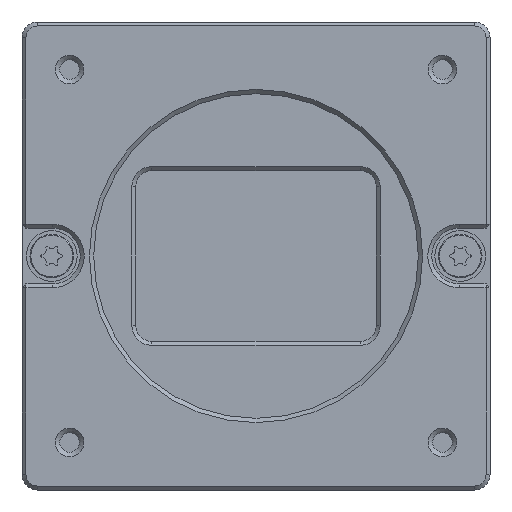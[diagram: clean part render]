
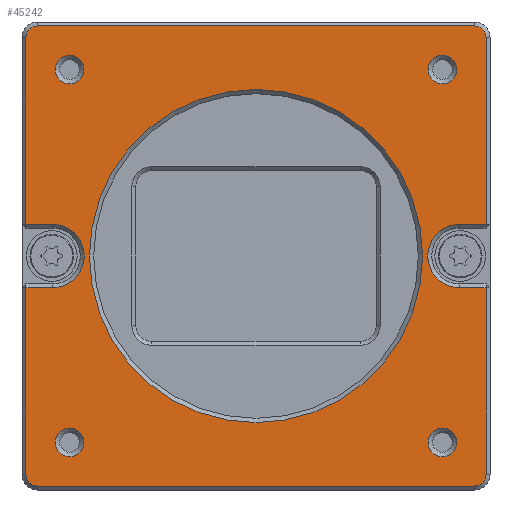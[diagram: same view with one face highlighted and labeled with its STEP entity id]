
A CAD part, front view. The second image highlights one B-rep face of the part: STEP entity #45242.
In plain terms, the highlighted planar face has unit normal (0, -1, 0).
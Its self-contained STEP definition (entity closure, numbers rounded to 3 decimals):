
#1517=FACE_BOUND('',#7579,.T.);
#1518=FACE_BOUND('',#7580,.T.);
#1519=FACE_BOUND('',#7581,.T.);
#1520=FACE_BOUND('',#7582,.T.);
#1521=FACE_BOUND('',#7583,.T.);
#5035=FACE_OUTER_BOUND('',#7578,.T.);
#7578=EDGE_LOOP('',(#35072,#35073,#35074,#35075,#35076,#35077,#35078,#35079,
#35080,#35081,#35082,#35083,#35084,#35085,#35086,#35087));
#7579=EDGE_LOOP('',(#35088,#35089));
#7580=EDGE_LOOP('',(#35090,#35091));
#7581=EDGE_LOOP('',(#35092,#35093));
#7582=EDGE_LOOP('',(#35094,#35095));
#7583=EDGE_LOOP('',(#35096,#35097));
#9275=CIRCLE('',#47622,4.);
#9276=CIRCLE('',#47623,1.5);
#9277=CIRCLE('',#47624,1.5);
#9278=CIRCLE('',#47625,4.);
#9279=CIRCLE('',#47626,1.5);
#9280=CIRCLE('',#47627,1.5);
#9281=CIRCLE('',#47628,21.);
#9282=CIRCLE('',#47629,21.);
#9283=CIRCLE('',#47630,1.8);
#9284=CIRCLE('',#47631,1.8);
#9285=CIRCLE('',#47632,1.8);
#9286=CIRCLE('',#47633,1.8);
#9287=CIRCLE('',#47634,1.8);
#9288=CIRCLE('',#47635,1.8);
#9289=CIRCLE('',#47636,1.8);
#9290=CIRCLE('',#47637,1.8);
#12230=LINE('',#69628,#16969);
#12231=LINE('',#69632,#16970);
#12232=LINE('',#69634,#16971);
#12233=LINE('',#69638,#16972);
#12234=LINE('',#69642,#16973);
#12235=LINE('',#69644,#16974);
#12236=LINE('',#69648,#16975);
#12237=LINE('',#69650,#16976);
#12238=LINE('',#69654,#16977);
#12239=LINE('',#69657,#16978);
#16969=VECTOR('',#53785,10.);
#16970=VECTOR('',#53788,10.);
#16971=VECTOR('',#53789,10.);
#16972=VECTOR('',#53792,10.);
#16973=VECTOR('',#53795,10.);
#16974=VECTOR('',#53796,10.);
#16975=VECTOR('',#53799,10.);
#16976=VECTOR('',#53800,10.);
#16977=VECTOR('',#53803,10.);
#16978=VECTOR('',#53806,10.);
#21394=VERTEX_POINT('',#69626);
#21395=VERTEX_POINT('',#69627);
#21396=VERTEX_POINT('',#69629);
#21397=VERTEX_POINT('',#69631);
#21398=VERTEX_POINT('',#69633);
#21399=VERTEX_POINT('',#69635);
#21400=VERTEX_POINT('',#69637);
#21401=VERTEX_POINT('',#69639);
#21402=VERTEX_POINT('',#69641);
#21403=VERTEX_POINT('',#69643);
#21404=VERTEX_POINT('',#69645);
#21405=VERTEX_POINT('',#69647);
#21406=VERTEX_POINT('',#69649);
#21407=VERTEX_POINT('',#69651);
#21408=VERTEX_POINT('',#69653);
#21409=VERTEX_POINT('',#69655);
#21410=VERTEX_POINT('',#69658);
#21411=VERTEX_POINT('',#69659);
#21412=VERTEX_POINT('',#69662);
#21413=VERTEX_POINT('',#69663);
#21414=VERTEX_POINT('',#69666);
#21415=VERTEX_POINT('',#69667);
#21416=VERTEX_POINT('',#69670);
#21417=VERTEX_POINT('',#69671);
#21418=VERTEX_POINT('',#69674);
#21419=VERTEX_POINT('',#69675);
#26277=EDGE_CURVE('',#21394,#21395,#12230,.T.);
#26278=EDGE_CURVE('',#21396,#21394,#9275,.T.);
#26279=EDGE_CURVE('',#21397,#21396,#12231,.T.);
#26280=EDGE_CURVE('',#21398,#21397,#12232,.T.);
#26281=EDGE_CURVE('',#21399,#21398,#9276,.T.);
#26282=EDGE_CURVE('',#21400,#21399,#12233,.T.);
#26283=EDGE_CURVE('',#21401,#21400,#9277,.T.);
#26284=EDGE_CURVE('',#21402,#21401,#12234,.T.);
#26285=EDGE_CURVE('',#21403,#21402,#12235,.T.);
#26286=EDGE_CURVE('',#21404,#21403,#9278,.T.);
#26287=EDGE_CURVE('',#21405,#21404,#12236,.T.);
#26288=EDGE_CURVE('',#21406,#21405,#12237,.T.);
#26289=EDGE_CURVE('',#21407,#21406,#9279,.T.);
#26290=EDGE_CURVE('',#21408,#21407,#12238,.T.);
#26291=EDGE_CURVE('',#21409,#21408,#9280,.T.);
#26292=EDGE_CURVE('',#21395,#21409,#12239,.T.);
#26293=EDGE_CURVE('',#21410,#21411,#9281,.T.);
#26294=EDGE_CURVE('',#21411,#21410,#9282,.T.);
#26295=EDGE_CURVE('',#21412,#21413,#9283,.T.);
#26296=EDGE_CURVE('',#21413,#21412,#9284,.T.);
#26297=EDGE_CURVE('',#21414,#21415,#9285,.T.);
#26298=EDGE_CURVE('',#21415,#21414,#9286,.T.);
#26299=EDGE_CURVE('',#21416,#21417,#9287,.T.);
#26300=EDGE_CURVE('',#21417,#21416,#9288,.T.);
#26301=EDGE_CURVE('',#21418,#21419,#9289,.T.);
#26302=EDGE_CURVE('',#21419,#21418,#9290,.T.);
#35072=ORIENTED_EDGE('',*,*,#26277,.F.);
#35073=ORIENTED_EDGE('',*,*,#26278,.F.);
#35074=ORIENTED_EDGE('',*,*,#26279,.F.);
#35075=ORIENTED_EDGE('',*,*,#26280,.F.);
#35076=ORIENTED_EDGE('',*,*,#26281,.F.);
#35077=ORIENTED_EDGE('',*,*,#26282,.F.);
#35078=ORIENTED_EDGE('',*,*,#26283,.F.);
#35079=ORIENTED_EDGE('',*,*,#26284,.F.);
#35080=ORIENTED_EDGE('',*,*,#26285,.F.);
#35081=ORIENTED_EDGE('',*,*,#26286,.F.);
#35082=ORIENTED_EDGE('',*,*,#26287,.F.);
#35083=ORIENTED_EDGE('',*,*,#26288,.F.);
#35084=ORIENTED_EDGE('',*,*,#26289,.F.);
#35085=ORIENTED_EDGE('',*,*,#26290,.F.);
#35086=ORIENTED_EDGE('',*,*,#26291,.F.);
#35087=ORIENTED_EDGE('',*,*,#26292,.F.);
#35088=ORIENTED_EDGE('',*,*,#26293,.T.);
#35089=ORIENTED_EDGE('',*,*,#26294,.T.);
#35090=ORIENTED_EDGE('',*,*,#26295,.T.);
#35091=ORIENTED_EDGE('',*,*,#26296,.T.);
#35092=ORIENTED_EDGE('',*,*,#26297,.T.);
#35093=ORIENTED_EDGE('',*,*,#26298,.T.);
#35094=ORIENTED_EDGE('',*,*,#26299,.T.);
#35095=ORIENTED_EDGE('',*,*,#26300,.T.);
#35096=ORIENTED_EDGE('',*,*,#26301,.T.);
#35097=ORIENTED_EDGE('',*,*,#26302,.T.);
#43381=PLANE('',#47621);
#45242=ADVANCED_FACE('',(#5035,#1517,#1518,#1519,#1520,#1521),#43381,.T.);
#47621=AXIS2_PLACEMENT_3D('',#69625,#53783,#53784);
#47622=AXIS2_PLACEMENT_3D('',#69630,#53786,#53787);
#47623=AXIS2_PLACEMENT_3D('',#69636,#53790,#53791);
#47624=AXIS2_PLACEMENT_3D('',#69640,#53793,#53794);
#47625=AXIS2_PLACEMENT_3D('',#69646,#53797,#53798);
#47626=AXIS2_PLACEMENT_3D('',#69652,#53801,#53802);
#47627=AXIS2_PLACEMENT_3D('',#69656,#53804,#53805);
#47628=AXIS2_PLACEMENT_3D('',#69660,#53807,#53808);
#47629=AXIS2_PLACEMENT_3D('',#69661,#53809,#53810);
#47630=AXIS2_PLACEMENT_3D('',#69664,#53811,#53812);
#47631=AXIS2_PLACEMENT_3D('',#69665,#53813,#53814);
#47632=AXIS2_PLACEMENT_3D('',#69668,#53815,#53816);
#47633=AXIS2_PLACEMENT_3D('',#69669,#53817,#53818);
#47634=AXIS2_PLACEMENT_3D('',#69672,#53819,#53820);
#47635=AXIS2_PLACEMENT_3D('',#69673,#53821,#53822);
#47636=AXIS2_PLACEMENT_3D('',#69676,#53823,#53824);
#47637=AXIS2_PLACEMENT_3D('',#69677,#53825,#53826);
#53783=DIRECTION('center_axis',(0.,-1.,0.));
#53784=DIRECTION('ref_axis',(0.,0.,-1.));
#53785=DIRECTION('',(1.,0.,0.));
#53786=DIRECTION('center_axis',(0.,-1.,0.));
#53787=DIRECTION('ref_axis',(0.,0.,1.));
#53788=DIRECTION('',(-1.,0.,0.));
#53789=DIRECTION('',(0.,0.,-1.));
#53790=DIRECTION('center_axis',(0.,1.,0.));
#53791=DIRECTION('ref_axis',(1.,0.,0.));
#53792=DIRECTION('',(1.,0.,0.));
#53793=DIRECTION('center_axis',(0.,1.,0.));
#53794=DIRECTION('ref_axis',(0.,0.,1.));
#53795=DIRECTION('',(0.,0.,1.));
#53796=DIRECTION('',(-1.,0.,0.));
#53797=DIRECTION('center_axis',(0.,-1.,0.));
#53798=DIRECTION('ref_axis',(0.,0.,-1.));
#53799=DIRECTION('',(1.,0.,0.));
#53800=DIRECTION('',(0.,0.,1.));
#53801=DIRECTION('center_axis',(0.,1.,0.));
#53802=DIRECTION('ref_axis',(-1.,0.,0.));
#53803=DIRECTION('',(-1.,0.,0.));
#53804=DIRECTION('center_axis',(0.,1.,0.));
#53805=DIRECTION('ref_axis',(0.,0.,-1.));
#53806=DIRECTION('',(0.,0.,-1.));
#53807=DIRECTION('center_axis',(0.,1.,0.));
#53808=DIRECTION('ref_axis',(1.,0.,0.));
#53809=DIRECTION('center_axis',(0.,1.,0.));
#53810=DIRECTION('ref_axis',(1.,0.,0.));
#53811=DIRECTION('center_axis',(0.,1.,0.));
#53812=DIRECTION('ref_axis',(1.,0.,0.));
#53813=DIRECTION('center_axis',(0.,1.,0.));
#53814=DIRECTION('ref_axis',(1.,0.,0.));
#53815=DIRECTION('center_axis',(0.,1.,0.));
#53816=DIRECTION('ref_axis',(1.,0.,0.));
#53817=DIRECTION('center_axis',(0.,1.,0.));
#53818=DIRECTION('ref_axis',(1.,0.,0.));
#53819=DIRECTION('center_axis',(0.,1.,0.));
#53820=DIRECTION('ref_axis',(1.,0.,0.));
#53821=DIRECTION('center_axis',(0.,1.,0.));
#53822=DIRECTION('ref_axis',(1.,0.,0.));
#53823=DIRECTION('center_axis',(0.,1.,0.));
#53824=DIRECTION('ref_axis',(1.,0.,0.));
#53825=DIRECTION('center_axis',(0.,1.,0.));
#53826=DIRECTION('ref_axis',(1.,0.,0.));
#69625=CARTESIAN_POINT('Origin',(0.,-6.,0.));
#69626=CARTESIAN_POINT('',(25.65,-6.,-4.));
#69627=CARTESIAN_POINT('',(29.,-6.,-4.));
#69628=CARTESIAN_POINT('',(14.75,-6.,-4.));
#69629=CARTESIAN_POINT('',(25.65,-6.,4.));
#69630=CARTESIAN_POINT('Origin',(25.65,-6.,0.));
#69631=CARTESIAN_POINT('',(29.,-6.,4.));
#69632=CARTESIAN_POINT('',(11.075,-6.,4.));
#69633=CARTESIAN_POINT('',(29.,-6.,27.5));
#69634=CARTESIAN_POINT('',(29.,-6.,-13.75));
#69635=CARTESIAN_POINT('',(27.5,-6.,29.));
#69636=CARTESIAN_POINT('Origin',(27.5,-6.,27.5));
#69637=CARTESIAN_POINT('',(-27.5,-6.,29.));
#69638=CARTESIAN_POINT('',(13.75,-6.,29.));
#69639=CARTESIAN_POINT('',(-29.,-6.,27.5));
#69640=CARTESIAN_POINT('Origin',(-27.5,-6.,27.5));
#69641=CARTESIAN_POINT('',(-29.,-6.,4.));
#69642=CARTESIAN_POINT('',(-29.,-6.,13.75));
#69643=CARTESIAN_POINT('',(-25.65,-6.,4.));
#69644=CARTESIAN_POINT('',(-14.75,-6.,4.));
#69645=CARTESIAN_POINT('',(-25.65,-6.,-4.));
#69646=CARTESIAN_POINT('Origin',(-25.65,-6.,0.));
#69647=CARTESIAN_POINT('',(-29.,-6.,-4.));
#69648=CARTESIAN_POINT('',(-11.075,-6.,-4.));
#69649=CARTESIAN_POINT('',(-29.,-6.,-27.5));
#69650=CARTESIAN_POINT('',(-29.,-6.,13.75));
#69651=CARTESIAN_POINT('',(-27.5,-6.,-29.));
#69652=CARTESIAN_POINT('Origin',(-27.5,-6.,-27.5));
#69653=CARTESIAN_POINT('',(27.5,-6.,-29.));
#69654=CARTESIAN_POINT('',(-13.75,-6.,-29.));
#69655=CARTESIAN_POINT('',(29.,-6.,-27.5));
#69656=CARTESIAN_POINT('Origin',(27.5,-6.,-27.5));
#69657=CARTESIAN_POINT('',(29.,-6.,-13.75));
#69658=CARTESIAN_POINT('',(21.,-6.,0.));
#69659=CARTESIAN_POINT('',(-21.,-6.,0.));
#69660=CARTESIAN_POINT('Origin',(0.,-6.,0.));
#69661=CARTESIAN_POINT('Origin',(0.,-6.,0.));
#69662=CARTESIAN_POINT('',(25.3,-6.,-23.5));
#69663=CARTESIAN_POINT('',(21.7,-6.,-23.5));
#69664=CARTESIAN_POINT('Origin',(23.5,-6.,-23.5));
#69665=CARTESIAN_POINT('Origin',(23.5,-6.,-23.5));
#69666=CARTESIAN_POINT('',(-21.7,-6.,23.5));
#69667=CARTESIAN_POINT('',(-25.3,-6.,23.5));
#69668=CARTESIAN_POINT('Origin',(-23.5,-6.,23.5));
#69669=CARTESIAN_POINT('Origin',(-23.5,-6.,23.5));
#69670=CARTESIAN_POINT('',(25.3,-6.,23.5));
#69671=CARTESIAN_POINT('',(21.7,-6.,23.5));
#69672=CARTESIAN_POINT('Origin',(23.5,-6.,23.5));
#69673=CARTESIAN_POINT('Origin',(23.5,-6.,23.5));
#69674=CARTESIAN_POINT('',(-21.7,-6.,-23.5));
#69675=CARTESIAN_POINT('',(-25.3,-6.,-23.5));
#69676=CARTESIAN_POINT('Origin',(-23.5,-6.,-23.5));
#69677=CARTESIAN_POINT('Origin',(-23.5,-6.,-23.5));
